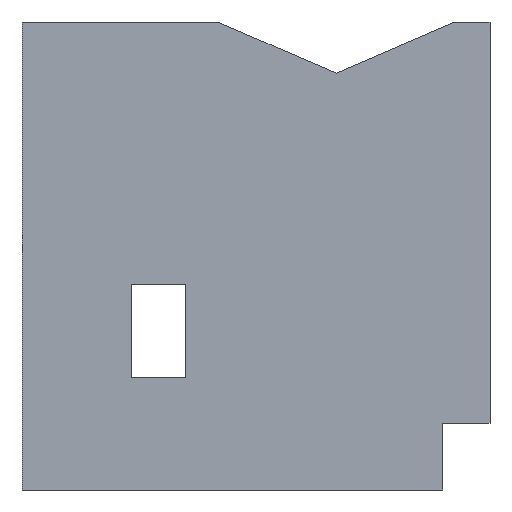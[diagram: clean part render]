
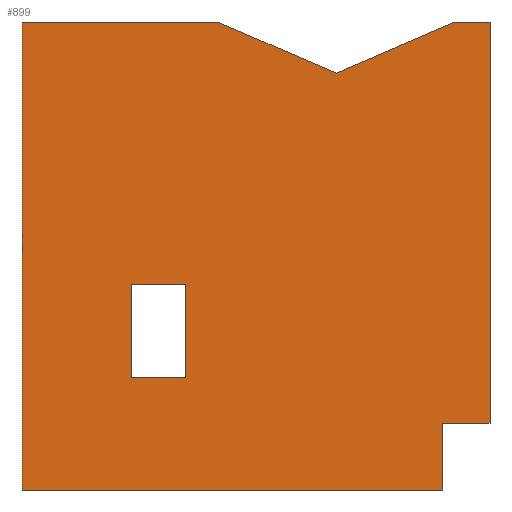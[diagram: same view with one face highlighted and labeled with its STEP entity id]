
A CAD part, front view. The second image highlights one B-rep face of the part: STEP entity #899.
In plain terms, the highlighted planar face has unit normal (0, -1, 0).
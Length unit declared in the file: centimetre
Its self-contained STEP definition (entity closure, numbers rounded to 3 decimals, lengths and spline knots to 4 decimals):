
#10 = DIRECTION ( 'NONE',  ( 1., 0., 0. ) ) ;
#26 = VERTEX_POINT ( 'NONE', #365 ) ;
#34 = LINE ( 'NONE', #330, #271 ) ;
#35 = DIRECTION ( 'NONE',  ( 1., 0., 0. ) ) ;
#56 = EDGE_CURVE ( 'NONE', #273, #526, #34, .T. ) ;
#57 = VECTOR ( 'NONE', #704, 100. ) ;
#70 = CARTESIAN_POINT ( 'NONE',  ( 0., 0., 1000. ) ) ;
#86 = CARTESIAN_POINT ( 'NONE',  ( 349.9373, 0., 439.066 ) ) ;
#98 = ORIENTED_EDGE ( 'NONE', *, *, #523, .T. ) ;
#142 = CARTESIAN_POINT ( 'NONE',  ( 234.3405, 0., 239.4908 ) ) ;
#145 = LINE ( 'NONE', #440, #648 ) ;
#147 = DIRECTION ( 'NONE',  ( -1., 0., 0. ) ) ;
#154 = VECTOR ( 'NONE', #383, 100. ) ;
#160 = CARTESIAN_POINT ( 'NONE',  ( 898.7545, 0., 0. ) ) ;
#162 = EDGE_CURVE ( 'NONE', #299, #26, #347, .T. ) ;
#171 = DIRECTION ( 'NONE',  ( 0., 0., 1. ) ) ;
#206 = FACE_BOUND ( 'NONE', #821, .T. ) ;
#215 = FACE_OUTER_BOUND ( 'NONE', #266, .T. ) ;
#218 = CARTESIAN_POINT ( 'NONE',  ( 234.3405, 0., 239.4908 ) ) ;
#223 = VERTEX_POINT ( 'NONE', #737 ) ;
#229 = ORIENTED_EDGE ( 'NONE', *, *, #706, .T. ) ;
#240 = ORIENTED_EDGE ( 'NONE', *, *, #766, .T. ) ;
#266 = EDGE_LOOP ( 'NONE', ( #770, #98, #305, #525, #475, #968, #743, #891, #229 ) ) ;
#271 = VECTOR ( 'NONE', #636, 100. ) ;
#273 = VERTEX_POINT ( 'NONE', #344 ) ;
#283 = VERTEX_POINT ( 'NONE', #744 ) ;
#298 = LINE ( 'NONE', #160, #982 ) ;
#299 = VERTEX_POINT ( 'NONE', #366 ) ;
#305 = ORIENTED_EDGE ( 'NONE', *, *, #162, .T. ) ;
#330 = CARTESIAN_POINT ( 'NONE',  ( 0., 0., 1000. ) ) ;
#339 = ORIENTED_EDGE ( 'NONE', *, *, #346, .T. ) ;
#344 = CARTESIAN_POINT ( 'NONE',  ( 924.7303, 0., 1000. ) ) ;
#346 = EDGE_CURVE ( 'NONE', #857, #885, #603, .T. ) ;
#347 = LINE ( 'NONE', #350, #424 ) ;
#350 = CARTESIAN_POINT ( 'NONE',  ( 898.7545, 0., 142.3457 ) ) ;
#353 = VERTEX_POINT ( 'NONE', #70 ) ;
#365 = CARTESIAN_POINT ( 'NONE',  ( 1000., 0., 142.3457 ) ) ;
#366 = CARTESIAN_POINT ( 'NONE',  ( 898.7545, 0., 142.3457 ) ) ;
#370 = VERTEX_POINT ( 'NONE', #681 ) ;
#383 = DIRECTION ( 'NONE',  ( -0.918, 0., -0.397 ) ) ;
#387 = EDGE_CURVE ( 'NONE', #885, #370, #822, .T. ) ;
#399 = LINE ( 'NONE', #628, #57 ) ;
#406 = VECTOR ( 'NONE', #448, 100. ) ;
#410 = EDGE_CURVE ( 'NONE', #526, #26, #537, .T. ) ;
#411 = LINE ( 'NONE', #566, #868 ) ;
#417 = DIRECTION ( 'NONE',  ( 1., 0., 0. ) ) ;
#419 = VECTOR ( 'NONE', #751, 100. ) ;
#424 = VECTOR ( 'NONE', #417, 100. ) ;
#440 = CARTESIAN_POINT ( 'NONE',  ( 349.9373, 0., 239.4908 ) ) ;
#448 = DIRECTION ( 'NONE',  ( 0., 0., -1. ) ) ;
#474 = LINE ( 'NONE', #524, #154 ) ;
#475 = ORIENTED_EDGE ( 'NONE', *, *, #56, .F. ) ;
#494 = VECTOR ( 'NONE', #710, 100. ) ;
#495 = EDGE_CURVE ( 'NONE', #273, #283, #474, .T. ) ;
#504 = PLANE ( 'NONE',  #699 ) ;
#518 = DIRECTION ( 'NONE',  ( 0., 0., -1. ) ) ;
#523 = EDGE_CURVE ( 'NONE', #660, #299, #298, .T. ) ;
#524 = CARTESIAN_POINT ( 'NONE',  ( 671.5394, 0., 890.6145 ) ) ;
#525 = ORIENTED_EDGE ( 'NONE', *, *, #410, .F. ) ;
#526 = VERTEX_POINT ( 'NONE', #674 ) ;
#528 = CARTESIAN_POINT ( 'NONE',  ( 898.7545, 0., 0. ) ) ;
#536 = CARTESIAN_POINT ( 'NONE',  ( 0., 0., 1000. ) ) ;
#537 = LINE ( 'NONE', #542, #406 ) ;
#542 = CARTESIAN_POINT ( 'NONE',  ( 1000., 0., 1000. ) ) ;
#559 = CARTESIAN_POINT ( 'NONE',  ( 0., 0., 1000. ) ) ;
#566 = CARTESIAN_POINT ( 'NONE',  ( 234.3405, 0., 439.066 ) ) ;
#581 = VERTEX_POINT ( 'NONE', #86 ) ;
#603 = LINE ( 'NONE', #142, #760 ) ;
#628 = CARTESIAN_POINT ( 'NONE',  ( 0., 0., 0. ) ) ;
#631 = EDGE_CURVE ( 'NONE', #353, #740, #682, .T. ) ;
#636 = DIRECTION ( 'NONE',  ( 1., 0., 0. ) ) ;
#648 = VECTOR ( 'NONE', #518, 100. ) ;
#660 = VERTEX_POINT ( 'NONE', #528 ) ;
#663 = DIRECTION ( 'NONE',  ( 0., 0., 1. ) ) ;
#665 = LINE ( 'NONE', #975, #869 ) ;
#672 = CARTESIAN_POINT ( 'NONE',  ( 234.3405, 0., 239.4908 ) ) ;
#674 = CARTESIAN_POINT ( 'NONE',  ( 1000., 0., 1000. ) ) ;
#681 = CARTESIAN_POINT ( 'NONE',  ( 234.3405, 0., 439.066 ) ) ;
#682 = LINE ( 'NONE', #536, #855 ) ;
#685 = EDGE_CURVE ( 'NONE', #223, #660, #399, .T. ) ;
#699 = AXIS2_PLACEMENT_3D ( 'NONE', #895, #746, #663 ) ;
#704 = DIRECTION ( 'NONE',  ( 1., 0., 0. ) ) ;
#706 = EDGE_CURVE ( 'NONE', #353, #223, #796, .T. ) ;
#710 = DIRECTION ( 'NONE',  ( 0., 0., -1. ) ) ;
#737 = CARTESIAN_POINT ( 'NONE',  ( 0., 0., 0. ) ) ;
#740 = VERTEX_POINT ( 'NONE', #799 ) ;
#743 = ORIENTED_EDGE ( 'NONE', *, *, #876, .T. ) ;
#744 = CARTESIAN_POINT ( 'NONE',  ( 671.5394, 0., 890.6145 ) ) ;
#746 = DIRECTION ( 'NONE',  ( 0., 1., 0. ) ) ;
#751 = DIRECTION ( 'NONE',  ( 0., 0., 1. ) ) ;
#760 = VECTOR ( 'NONE', #147, 100. ) ;
#766 = EDGE_CURVE ( 'NONE', #370, #581, #411, .T. ) ;
#770 = ORIENTED_EDGE ( 'NONE', *, *, #685, .T. ) ;
#796 = LINE ( 'NONE', #559, #494 ) ;
#799 = CARTESIAN_POINT ( 'NONE',  ( 418.3485, 0., 1000. ) ) ;
#807 = ORIENTED_EDGE ( 'NONE', *, *, #387, .T. ) ;
#821 = EDGE_LOOP ( 'NONE', ( #339, #807, #240, #840 ) ) ;
#822 = LINE ( 'NONE', #672, #419 ) ;
#825 = CARTESIAN_POINT ( 'NONE',  ( 349.9373, 0., 239.4908 ) ) ;
#840 = ORIENTED_EDGE ( 'NONE', *, *, #890, .T. ) ;
#855 = VECTOR ( 'NONE', #10, 100. ) ;
#857 = VERTEX_POINT ( 'NONE', #825 ) ;
#868 = VECTOR ( 'NONE', #35, 100. ) ;
#869 = VECTOR ( 'NONE', #979, 100. ) ;
#876 = EDGE_CURVE ( 'NONE', #283, #740, #665, .T. ) ;
#885 = VERTEX_POINT ( 'NONE', #218 ) ;
#890 = EDGE_CURVE ( 'NONE', #581, #857, #145, .T. ) ;
#891 = ORIENTED_EDGE ( 'NONE', *, *, #631, .F. ) ;
#895 = CARTESIAN_POINT ( 'NONE',  ( 0., 0., 1000. ) ) ;
#899 = ADVANCED_FACE ( 'NONE', ( #206, #215 ), #504, .F. ) ;
#968 = ORIENTED_EDGE ( 'NONE', *, *, #495, .T. ) ;
#975 = CARTESIAN_POINT ( 'NONE',  ( 418.3485, 0., 1000. ) ) ;
#979 = DIRECTION ( 'NONE',  ( -0.918, 0., 0.397 ) ) ;
#982 = VECTOR ( 'NONE', #171, 100. ) ;
